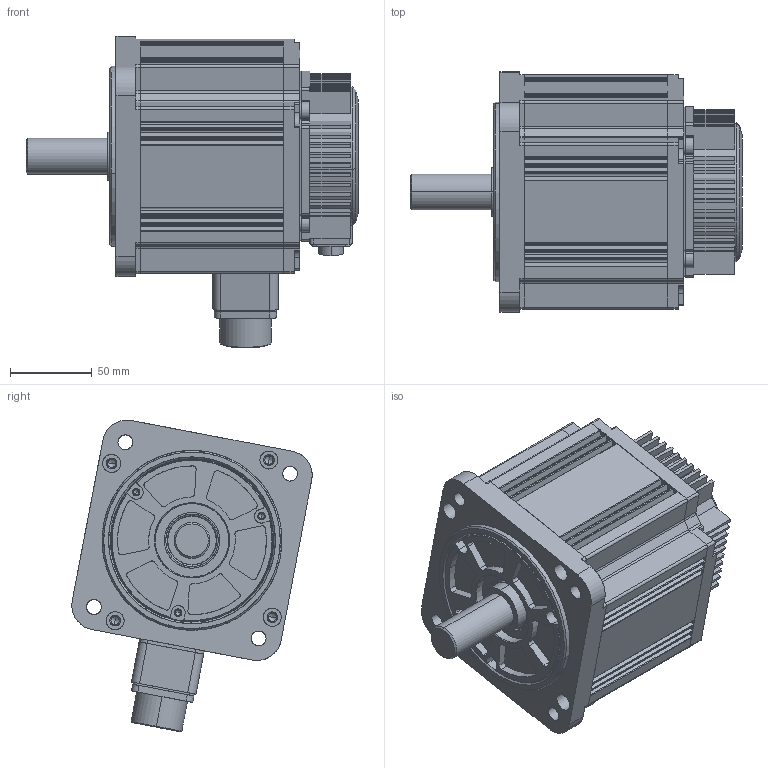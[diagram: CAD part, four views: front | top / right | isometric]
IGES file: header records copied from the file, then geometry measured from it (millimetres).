
Start section: SolidWorks IGES file using analytic representation for surfaces
Bounding box: 203 x 146.96 x 190.58 mm (x, y, z)
Surface area: 324495.8 mm2 (no closed solid volume)
Topology: 0 solids, 0 shells, 1408 faces, 22130 edges, 22020 vertices
Faces by surface type: revolution 773, bspline 635
